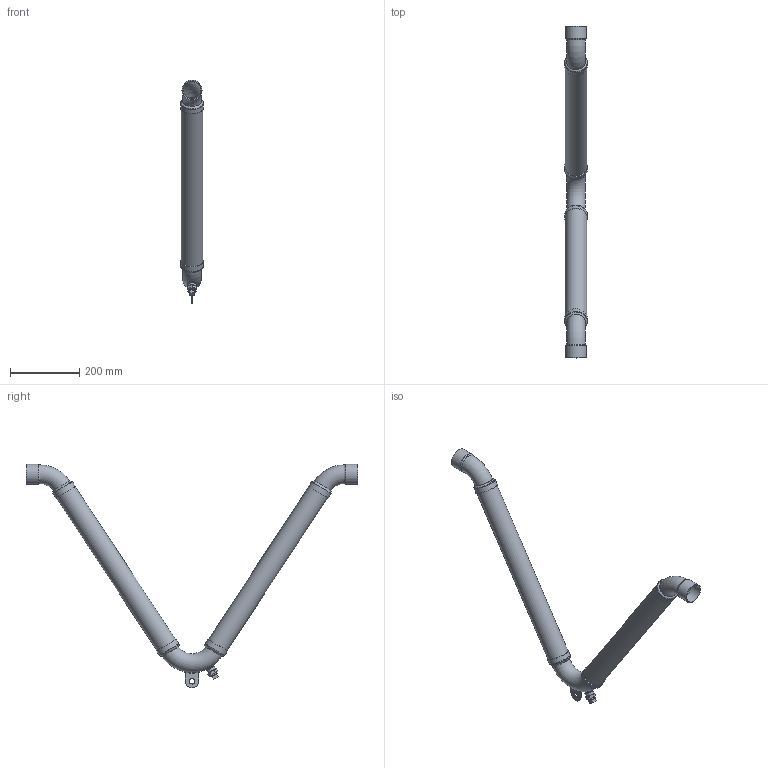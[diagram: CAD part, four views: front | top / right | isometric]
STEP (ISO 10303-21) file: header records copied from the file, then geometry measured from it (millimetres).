
FILE_DESCRIPTION((''),'2;1');
FILE_NAME('C:\REVIT SHARED FILES\STP\VCPSB\VCPSB-2.stp','2013-08-08T10:40:17',('rramoutar'),(''),'Autodesk Inventor 2012','Autodesk Inventor 2012','');
FILE_SCHEMA(('AUTOMOTIVE_DESIGN { 1 0 10303 214 1 1 1 1 }'));
Length unit declared in the file: inch
Products named in the file (9): A-31298-2 VCPSB 2.0 inch.iam (NO HOSE); A-31298-2 VCPSB 2.0 inch.iam (NO HOSE)_Welds; A-31301-2 BRASS, CAST PLUG 0.5 inch; A-31301-2 COPPER FEMALE ADAPTER 0.5 inch; A-31129-3 VCPSB 2.0  inch 120 DEGREE ELBOW; A-31303 VCPS & VCPSB 2.0 inch TO 2.5 inch SUPPORT CLIP; A-31121-3 VCPSB 2.0  inch 60 DEGREE ELBOW; A-31011 BRONZE HOSE BRAID COLLAR 2.0 inch; A-31298-2 VCPSB 2.0 inch PHOSPHOR BRONZE BRAID
Assembly tree (13 placements, depth 2):
  A-31298-2 VCPSB 2.0 inch.iam (NO HOSE)
    A-31298-2 VCPSB 2.0 inch.iam (NO HOSE)_Welds
    A-31301-2 BRASS, CAST PLUG 0.5 inch
    A-31301-2 COPPER FEMALE ADAPTER 0.5 inch
    A-31129-3 VCPSB 2.0  inch 120 DEGREE ELBOW
    A-31303 VCPS & VCPSB 2.0 inch TO 2.5 inch SUPPORT CLIP
    A-31121-3 VCPSB 2.0  inch 60 DEGREE ELBOW  x2
    A-31011 BRONZE HOSE BRAID COLLAR 2.0 inch  x4
    A-31298-2 VCPSB 2.0 inch PHOSPHOR BRONZE BRAID  x2
Bounding box: 65.96 x 957.26 x 645.11 mm (x, y, z)
Volume: 280414.6 mm3; surface area: 626070.2 mm2
Topology: 18 solids, 18 shells, 107 faces, 228 edges, 152 vertices
Faces by surface type: plane 52, cylinder 26, torus 12, bspline 9, cone 8
Full cylindrical faces by diameter (mm): 14.408 x1, 15.767 x1, 15.875 x1, 18.256 x3, 20.32 x1, 21.336 x1, 24.74 x1, 54.102 x2, 58.318 x2, 61.976 x2, 62.789 x6, 65.964 x4
Entity records: 6653 total; most frequent: CARTESIAN_POINT 4711, DIRECTION 326, ORIENTED_EDGE 292, EDGE_CURVE 146, AXIS2_PLACEMENT_3D 144, EDGE_LOOP 135, VERTEX_POINT 115, FACE_OUTER_BOUND 83
